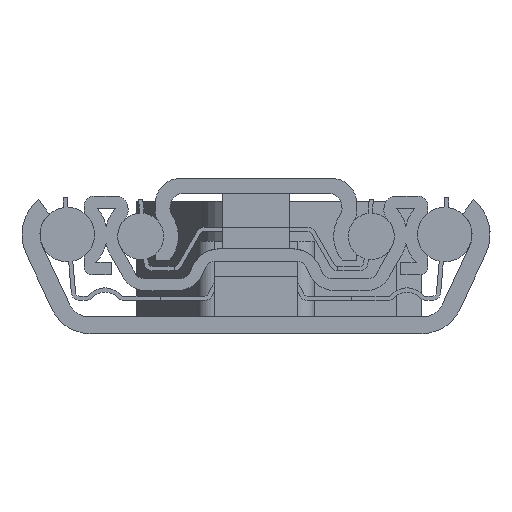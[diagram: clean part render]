
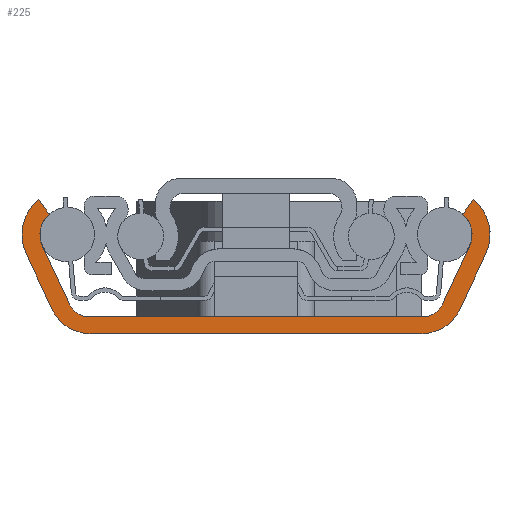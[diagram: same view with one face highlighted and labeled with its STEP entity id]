
A CAD part, left-side view. The second image highlights one B-rep face of the part: STEP entity #225.
In plain terms, the highlighted planar face has unit normal (-1, 0, 0).
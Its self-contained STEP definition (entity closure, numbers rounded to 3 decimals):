
#225 = ADVANCED_FACE( '', ( #578 ), #579, .F. );
#578 = FACE_OUTER_BOUND( '', #1263, .T. );
#579 = PLANE( '', #1264 );
#1263 = EDGE_LOOP( '', ( #2072, #2073, #2074, #2075, #2076, #2077, #2078, #2079, #2080, #2081, #2082, #2083, #2084, #2085, #2086, #2087 ) );
#1264 = AXIS2_PLACEMENT_3D( '', #2088, #2089, #2090 );
#2072 = ORIENTED_EDGE( '', *, *, #4785, .F. );
#2073 = ORIENTED_EDGE( '', *, *, #4794, .T. );
#2074 = ORIENTED_EDGE( '', *, *, #4791, .F. );
#2075 = ORIENTED_EDGE( '', *, *, #4788, .T. );
#2076 = ORIENTED_EDGE( '', *, *, #4736, .F. );
#2077 = ORIENTED_EDGE( '', *, *, #4756, .T. );
#2078 = ORIENTED_EDGE( '', *, *, #4759, .F. );
#2079 = ORIENTED_EDGE( '', *, *, #4762, .T. );
#2080 = ORIENTED_EDGE( '', *, *, #4765, .F. );
#2081 = ORIENTED_EDGE( '', *, *, #4768, .F. );
#2082 = ORIENTED_EDGE( '', *, *, #4771, .F. );
#2083 = ORIENTED_EDGE( '', *, *, #4774, .F. );
#2084 = ORIENTED_EDGE( '', *, *, #4749, .F. );
#2085 = ORIENTED_EDGE( '', *, *, #4776, .F. );
#2086 = ORIENTED_EDGE( '', *, *, #4779, .F. );
#2087 = ORIENTED_EDGE( '', *, *, #4782, .F. );
#2088 = CARTESIAN_POINT( '', ( 0., -22.5, 11.8 ) );
#2089 = DIRECTION( '', ( 1., 0., 0. ) );
#2090 = DIRECTION( '', ( 0., 0., -1. ) );
#4736 = EDGE_CURVE( '', #5692, #5693, #5694, .T. );
#4749 = EDGE_CURVE( '', #5716, #5717, #5718, .T. );
#4756 = EDGE_CURVE( '', #5692, #5729, #5730, .T. );
#4759 = EDGE_CURVE( '', #5734, #5729, #5735, .T. );
#4762 = EDGE_CURVE( '', #5734, #5739, #5740, .T. );
#4765 = EDGE_CURVE( '', #5744, #5739, #5745, .T. );
#4768 = EDGE_CURVE( '', #5749, #5744, #5750, .T. );
#4771 = EDGE_CURVE( '', #5754, #5749, #5755, .T. );
#4774 = EDGE_CURVE( '', #5717, #5754, #5759, .T. );
#4776 = EDGE_CURVE( '', #5761, #5716, #5762, .T. );
#4779 = EDGE_CURVE( '', #5766, #5761, #5767, .T. );
#4782 = EDGE_CURVE( '', #5771, #5766, #5772, .T. );
#4785 = EDGE_CURVE( '', #5776, #5771, #5777, .T. );
#4788 = EDGE_CURVE( '', #5781, #5693, #5782, .T. );
#4791 = EDGE_CURVE( '', #5781, #5786, #5787, .T. );
#4794 = EDGE_CURVE( '', #5776, #5786, #5791, .T. );
#5692 = VERTEX_POINT( '', #7256 );
#5693 = VERTEX_POINT( '', #7257 );
#5694 = LINE( '', #7258, #7259 );
#5716 = VERTEX_POINT( '', #7289 );
#5717 = VERTEX_POINT( '', #7290 );
#5718 = LINE( '', #7291, #7292 );
#5729 = VERTEX_POINT( '', #7309 );
#5730 = CIRCLE( '', #7310, 2.5 );
#5734 = VERTEX_POINT( '', #7315 );
#5735 = LINE( '', #7316, #7317 );
#5739 = VERTEX_POINT( '', #7323 );
#5740 = CIRCLE( '', #7324, 3.25 );
#5744 = VERTEX_POINT( '', #7329 );
#5745 = LINE( '', #7330, #7331 );
#5749 = VERTEX_POINT( '', #7337 );
#5750 = CIRCLE( '', #7338, 5.4 );
#5754 = VERTEX_POINT( '', #7343 );
#5755 = LINE( '', #7344, #7345 );
#5759 = CIRCLE( '', #7351, 5. );
#5761 = VERTEX_POINT( '', #7353 );
#5762 = CIRCLE( '', #7354, 5. );
#5766 = VERTEX_POINT( '', #7359 );
#5767 = LINE( '', #7360, #7361 );
#5771 = VERTEX_POINT( '', #7367 );
#5772 = CIRCLE( '', #7368, 5.4 );
#5776 = VERTEX_POINT( '', #7373 );
#5777 = LINE( '', #7374, #7375 );
#5781 = VERTEX_POINT( '', #7381 );
#5782 = CIRCLE( '', #7382, 2.5 );
#5786 = VERTEX_POINT( '', #7387 );
#5787 = LINE( '', #7388, #7389 );
#5791 = CIRCLE( '', #7395, 3.25 );
#7256 = CARTESIAN_POINT( '', ( 0., 19.923, 2. ) );
#7257 = CARTESIAN_POINT( '', ( 0., -19.923, 2. ) );
#7258 = CARTESIAN_POINT( '', ( 0., 19.923, 2. ) );
#7259 = VECTOR( '', #9510, 1000. );
#7289 = CARTESIAN_POINT( '', ( 0., -19.77, 0. ) );
#7290 = CARTESIAN_POINT( '', ( 0., 19.77, 0. ) );
#7291 = CARTESIAN_POINT( '', ( 0., -19.77, 0. ) );
#7292 = VECTOR( '', #9531, 1000. );
#7309 = CARTESIAN_POINT( '', ( 0., 22.189, 3.443 ) );
#7310 = AXIS2_PLACEMENT_3D( '', #9538, #9539, #9540 );
#7315 = CARTESIAN_POINT( '', ( 0., 25.445, 10.426 ) );
#7316 = CARTESIAN_POINT( '', ( 0., 25.445, 10.426 ) );
#7317 = VECTOR( '', #9545, 1000. );
#7323 = CARTESIAN_POINT( '', ( 0., 24.656, 14.232 ) );
#7324 = AXIS2_PLACEMENT_3D( '', #9548, #9549, #9550 );
#7329 = CARTESIAN_POINT( '', ( 0., 25.894, 16. ) );
#7330 = CARTESIAN_POINT( '', ( 0., 25.894, 16. ) );
#7331 = VECTOR( '', #9555, 1000. );
#7337 = CARTESIAN_POINT( '', ( 0., 27.394, 9.518 ) );
#7338 = AXIS2_PLACEMENT_3D( '', #9558, #9559, #9560 );
#7343 = CARTESIAN_POINT( '', ( 0., 24.302, 2.887 ) );
#7344 = CARTESIAN_POINT( '', ( 0., 24.302, 2.887 ) );
#7345 = VECTOR( '', #9565, 1000. );
#7351 = AXIS2_PLACEMENT_3D( '', #9568, #9569, #9570 );
#7353 = CARTESIAN_POINT( '', ( 0., -24.302, 2.887 ) );
#7354 = AXIS2_PLACEMENT_3D( '', #9574, #9575, #9576 );
#7359 = CARTESIAN_POINT( '', ( 0., -27.394, 9.518 ) );
#7360 = CARTESIAN_POINT( '', ( 0., -27.394, 9.518 ) );
#7361 = VECTOR( '', #9581, 1000. );
#7367 = CARTESIAN_POINT( '', ( 0., -25.894, 16. ) );
#7368 = AXIS2_PLACEMENT_3D( '', #9584, #9585, #9586 );
#7373 = CARTESIAN_POINT( '', ( 0., -24.656, 14.232 ) );
#7374 = CARTESIAN_POINT( '', ( 0., -24.656, 14.232 ) );
#7375 = VECTOR( '', #9591, 1000. );
#7381 = CARTESIAN_POINT( '', ( 0., -22.189, 3.443 ) );
#7382 = AXIS2_PLACEMENT_3D( '', #9594, #9595, #9596 );
#7387 = CARTESIAN_POINT( '', ( 0., -25.445, 10.426 ) );
#7388 = CARTESIAN_POINT( '', ( 0., -22.189, 3.443 ) );
#7389 = VECTOR( '', #9601, 1000. );
#7395 = AXIS2_PLACEMENT_3D( '', #9604, #9605, #9606 );
#9510 = DIRECTION( '', ( 0., -1., 0. ) );
#9531 = DIRECTION( '', ( 0., 1., 0. ) );
#9538 = CARTESIAN_POINT( '', ( 0., 19.923, 4.5 ) );
#9539 = DIRECTION( '', ( 1., 0., 0. ) );
#9540 = DIRECTION( '', ( 0., 0., -1. ) );
#9545 = DIRECTION( '', ( 0., -0.423, -0.906 ) );
#9548 = CARTESIAN_POINT( '', ( 0., 22.5, 11.8 ) );
#9549 = DIRECTION( '', ( 1., 0., 0. ) );
#9550 = DIRECTION( '', ( 0., 0., -1. ) );
#9555 = DIRECTION( '', ( 0., -0.574, -0.819 ) );
#9558 = CARTESIAN_POINT( '', ( 0., 22.5, 11.8 ) );
#9559 = DIRECTION( '', ( 1., 0., 0. ) );
#9560 = DIRECTION( '', ( 0., 0., -1. ) );
#9565 = DIRECTION( '', ( 0., 0.423, 0.906 ) );
#9568 = CARTESIAN_POINT( '', ( 0., 19.77, 5. ) );
#9569 = DIRECTION( '', ( 1., 0., 0. ) );
#9570 = DIRECTION( '', ( 0., 0., -1. ) );
#9574 = CARTESIAN_POINT( '', ( 0., -19.77, 5. ) );
#9575 = DIRECTION( '', ( 1., 0., 0. ) );
#9576 = DIRECTION( '', ( 0., 0., -1. ) );
#9581 = DIRECTION( '', ( 0., 0.423, -0.906 ) );
#9584 = CARTESIAN_POINT( '', ( 0., -22.5, 11.8 ) );
#9585 = DIRECTION( '', ( 1., 0., 0. ) );
#9586 = DIRECTION( '', ( 0., 0., -1. ) );
#9591 = DIRECTION( '', ( 0., -0.574, 0.819 ) );
#9594 = CARTESIAN_POINT( '', ( 0., -19.923, 4.5 ) );
#9595 = DIRECTION( '', ( 1., 0., 0. ) );
#9596 = DIRECTION( '', ( 0., 0., -1. ) );
#9601 = DIRECTION( '', ( 0., -0.423, 0.906 ) );
#9604 = CARTESIAN_POINT( '', ( 0., -22.5, 11.8 ) );
#9605 = DIRECTION( '', ( 1., 0., 0. ) );
#9606 = DIRECTION( '', ( 0., 0., -1. ) );
